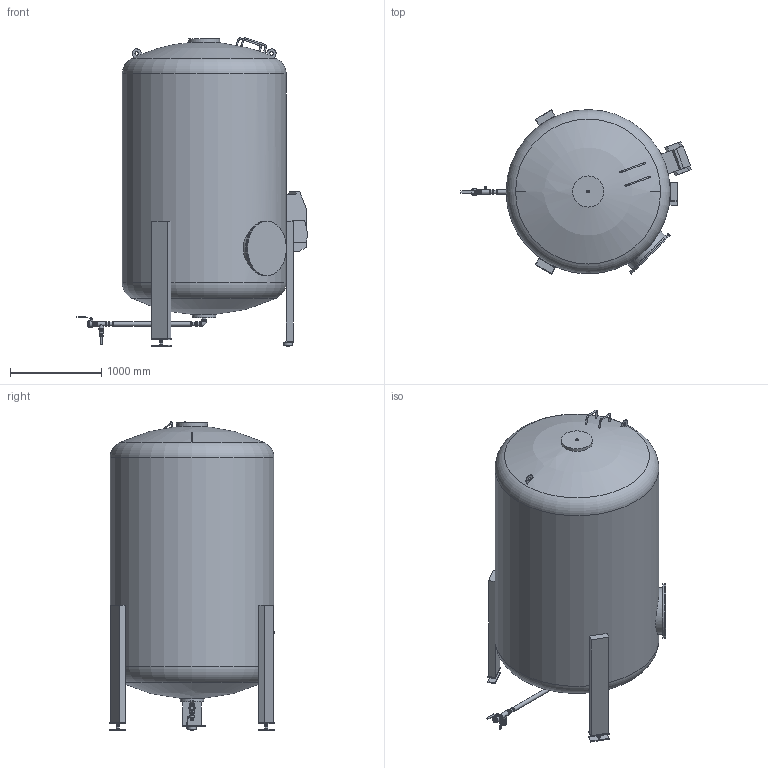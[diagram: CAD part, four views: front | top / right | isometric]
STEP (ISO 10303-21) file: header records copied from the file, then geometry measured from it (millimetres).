
FILE_DESCRIPTION(/* description */ (''),/* implementation_level */ '2;1');
FILE_NAME(/* name */ '\\dataserver\data\Flamco\3D-Modellen\Inventor\Flamcomat\2021_Flamcomat MK-U G4\flamcomat_mk-u_g4_6500_3.stp',/* time_stamp */ '2021-12-15T09:03:58+01:00',/* author */ ('kasius'),/* organization */ (''),/* preprocessor_version */ 'ST-DEVELOPER v17',/* originating_system */ 'Autodesk Inventor 2018',/* authorisation */ '');
FILE_SCHEMA (('AUTOMOTIVE_DESIGN { 1 0 10303 214 3 1 1 }'));
Length unit declared in the file: millimetre
Products named in the file (1): flamcomat_mk-u_g4_6500_3
Bounding box: 2525.5 x 1807.34 x 3383.78 mm (x, y, z)
Volume: 7132554813.4 mm3; surface area: 23078378.4 mm2
Topology: 7 solids, 7 shells, 326 faces, 867 edges, 611 vertices
Faces by surface type: plane 167, cylinder 86, cone 45, torus 24, sphere 4
Full cylindrical faces by diameter (mm): 9.5 x1, 12 x2, 16 x6, 18.3 x1, 18.331 x1, 20 x4, 21.939 x1, 25.4 x1, 26 x1, 28 x2, 30 x1, 30.289 x1, 32.99 x1, 34.594 x2, 36.906 x2, 37.998 x1, 38 x2, 40 x1, 40.768 x2, 41.7 x2, 43 x2, 44.85 x1, 44.999 x1, 45.999 x1, 46.1 x1, 46.845 x1, 47 x3, 48 x2, 48.008 x1, 48.3 x1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
Entity records: 10946 total; most frequent: CARTESIAN_POINT 2126, DIRECTION 1935, ORIENTED_EDGE 1734, EDGE_CURVE 867, AXIS2_PLACEMENT_3D 777, VERTEX_POINT 611, CIRCLE 450, EDGE_LOOP 386
